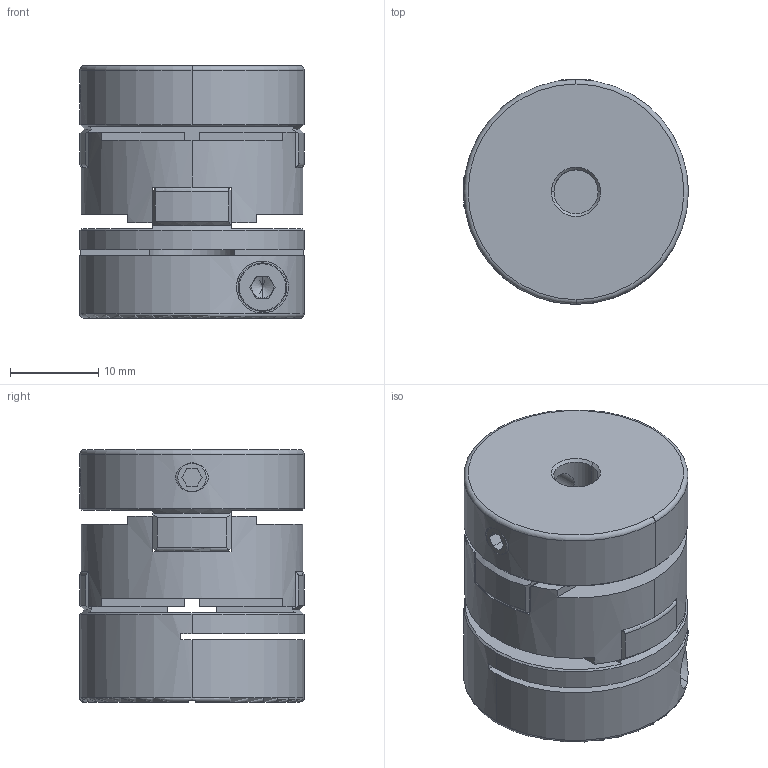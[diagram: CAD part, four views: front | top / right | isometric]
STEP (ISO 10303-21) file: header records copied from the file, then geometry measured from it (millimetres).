
FILE_DESCRIPTION (( 'STEP AP203' ), '1' );
FILE_NAME ('SOH-25SC-5X10_203.STEP', '2013-01-23T07:42:29', ( '' ), ( '' ), 'SwSTEP 2.0', 'SolidWorks 2012', '' );
FILE_SCHEMA (( 'CONFIG_CONTROL_DESIGN' ));
Length unit declared in the file: millimetre
Products named in the file (1): SOH-25SC-5X10_203
Bounding box: 25.5 x 25.5 x 28.7 mm (x, y, z)
Volume: 11594.2 mm3; surface area: 6437.5 mm2
Topology: 1 solids, 1 shells, 201 faces, 565 edges, 354 vertices
Faces by surface type: plane 100, cylinder 56, cone 30, torus 15
Entity records: 6944 total; most frequent: CARTESIAN_POINT 1727, ORIENTED_EDGE 1118, DIRECTION 1043, EDGE_CURVE 559, AXIS2_PLACEMENT_3D 376, VERTEX_POINT 354, LINE 291, VECTOR 291
